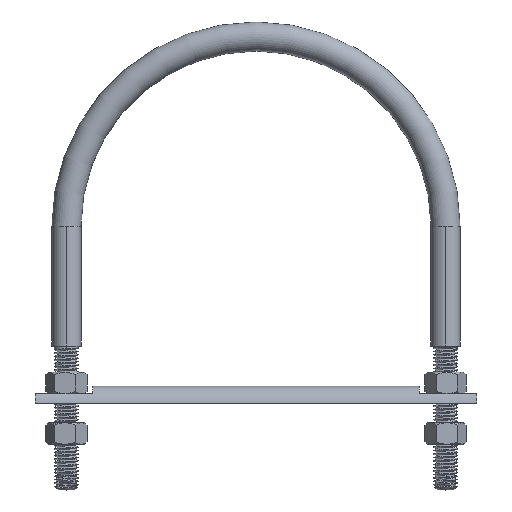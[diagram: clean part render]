
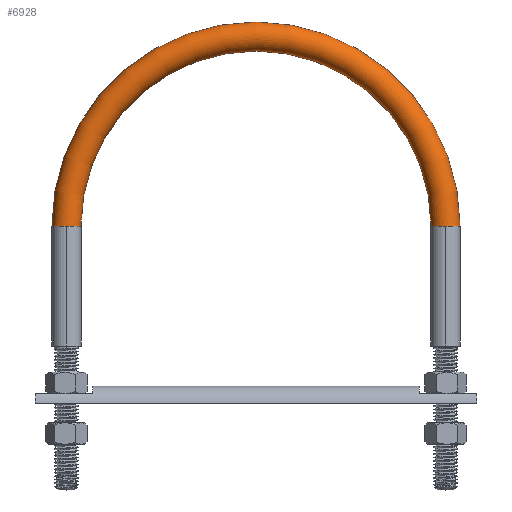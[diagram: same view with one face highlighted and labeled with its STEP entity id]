
A CAD part, top view. The second image highlights one B-rep face of the part: STEP entity #6928.
In plain terms, the highlighted toroidal (fillet/blend) face has major radius 125.412 mm and minor radius 9.62 mm.
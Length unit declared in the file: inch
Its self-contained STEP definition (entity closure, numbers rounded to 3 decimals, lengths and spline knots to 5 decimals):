
#38 = AXIS2_PLACEMENT_3D ( 'NONE', #6118, #1800, #6413 ) ;
#825 = EDGE_LOOP ( 'NONE', ( #14204, #19720, #3898, #12275, #6132, #8158 ) ) ;
#1218 = EDGE_CURVE ( 'NONE', #18591, #10209, #18780, .T. ) ;
#1800 = DIRECTION ( 'NONE',  ( 0., -1., 0. ) ) ;
#2131 = TOROIDAL_SURFACE ( 'NONE', #2460, 4.9375, 0.37875 ) ;
#2460 = AXIS2_PLACEMENT_3D ( 'NONE', #14582, #16205, #6510 ) ;
#2865 = DIRECTION ( 'NONE',  ( 0., 0., 1. ) ) ;
#3214 = CARTESIAN_POINT ( 'NONE',  ( 5.31625, 6.875, 0. ) ) ;
#3691 = CIRCLE ( 'NONE', #19162, 0.37875 ) ;
#3827 = CARTESIAN_POINT ( 'NONE',  ( 0., 6.875, 0. ) ) ;
#3898 = ORIENTED_EDGE ( 'NONE', *, *, #4761, .F. ) ;
#3930 = DIRECTION ( 'NONE',  ( 1., 0., 0. ) ) ;
#4006 = AXIS2_PLACEMENT_3D ( 'NONE', #19817, #2865, #6274 ) ;
#4141 = EDGE_CURVE ( 'NONE', #11433, #5586, #10438, .T. ) ;
#4393 = CARTESIAN_POINT ( 'NONE',  ( 4.9375, 6.875, 0.37875 ) ) ;
#4761 = EDGE_CURVE ( 'Edge1', #10661, #5586, #3691, .T. ) ;
#5586 = VERTEX_POINT ( 'NONE', #16552 ) ;
#6118 = CARTESIAN_POINT ( 'NONE',  ( -4.9375, 6.875, 0. ) ) ;
#6132 = ORIENTED_EDGE ( 'NONE', *, *, #1218, .F. ) ;
#6274 = DIRECTION ( 'NONE',  ( 1., 0., 0. ) ) ;
#6413 = DIRECTION ( 'NONE',  ( 0., 0., 1. ) ) ;
#6495 = CARTESIAN_POINT ( 'NONE',  ( -4.9375, 6.875, 0.37875 ) ) ;
#6510 = DIRECTION ( 'NONE',  ( 1., 0., 0. ) ) ;
#6928 = ADVANCED_FACE ( 'Face1', ( #10934 ), #2131, .T. ) ;
#7199 = CARTESIAN_POINT ( 'NONE',  ( -4.9375, 6.875, 0. ) ) ;
#7413 = CARTESIAN_POINT ( 'NONE',  ( 4.55875, 6.875, 0. ) ) ;
#8158 = ORIENTED_EDGE ( 'NONE', *, *, #14858, .T. ) ;
#8747 = VERTEX_POINT ( 'NONE', #4393 ) ;
#9191 = DIRECTION ( 'NONE',  ( 0., 1., 0. ) ) ;
#9853 = DIRECTION ( 'NONE',  ( 0., 0., 1. ) ) ;
#10209 = VERTEX_POINT ( 'NONE', #11140 ) ;
#10438 = CIRCLE ( 'NONE', #16900, 5.31625 ) ;
#10661 = VERTEX_POINT ( 'NONE', #6495 ) ;
#10667 = AXIS2_PLACEMENT_3D ( 'NONE', #17530, #19253, #9853 ) ;
#10934 = FACE_OUTER_BOUND ( 'NONE', #825, .T. ) ;
#10983 = DIRECTION ( 'NONE',  ( 0., 0., 1. ) ) ;
#11140 = CARTESIAN_POINT ( 'NONE',  ( -4.55875, 6.875, 0. ) ) ;
#11433 = VERTEX_POINT ( 'NONE', #3214 ) ;
#11629 = DIRECTION ( 'NONE',  ( 0., -1., 0. ) ) ;
#12275 = ORIENTED_EDGE ( 'NONE', *, *, #13150, .F. ) ;
#13150 = EDGE_CURVE ( 'Edge1', #10209, #10661, #18715, .T. ) ;
#14204 = ORIENTED_EDGE ( 'NONE', *, *, #17331, .T. ) ;
#14582 = CARTESIAN_POINT ( 'NONE',  ( 0., 6.875, 0. ) ) ;
#14858 = EDGE_CURVE ( 'NONE', #18591, #8747, #16166, .T. ) ;
#15356 = CARTESIAN_POINT ( 'NONE',  ( 4.9375, 6.875, 0. ) ) ;
#15496 = AXIS2_PLACEMENT_3D ( 'NONE', #15356, #9191, #10983 ) ;
#16166 = CIRCLE ( 'NONE', #10667, 0.37875 ) ;
#16205 = DIRECTION ( 'NONE',  ( 0., 0., 1. ) ) ;
#16552 = CARTESIAN_POINT ( 'NONE',  ( -5.31625, 6.875, 0. ) ) ;
#16900 = AXIS2_PLACEMENT_3D ( 'NONE', #3827, #19254, #3930 ) ;
#17331 = EDGE_CURVE ( 'NONE', #8747, #11433, #19042, .T. ) ;
#17530 = CARTESIAN_POINT ( 'NONE',  ( 4.9375, 6.875, 0. ) ) ;
#18591 = VERTEX_POINT ( 'NONE', #7413 ) ;
#18715 = CIRCLE ( 'NONE', #38, 0.37875 ) ;
#18780 = CIRCLE ( 'NONE', #4006, 4.55875 ) ;
#19042 = CIRCLE ( 'NONE', #15496, 0.37875 ) ;
#19162 = AXIS2_PLACEMENT_3D ( 'NONE', #7199, #11629, #19624 ) ;
#19253 = DIRECTION ( 'NONE',  ( 0., 1., 0. ) ) ;
#19254 = DIRECTION ( 'NONE',  ( 0., 0., 1. ) ) ;
#19624 = DIRECTION ( 'NONE',  ( 0., 0., 1. ) ) ;
#19720 = ORIENTED_EDGE ( 'NONE', *, *, #4141, .T. ) ;
#19817 = CARTESIAN_POINT ( 'NONE',  ( 0., 6.875, 0. ) ) ;
